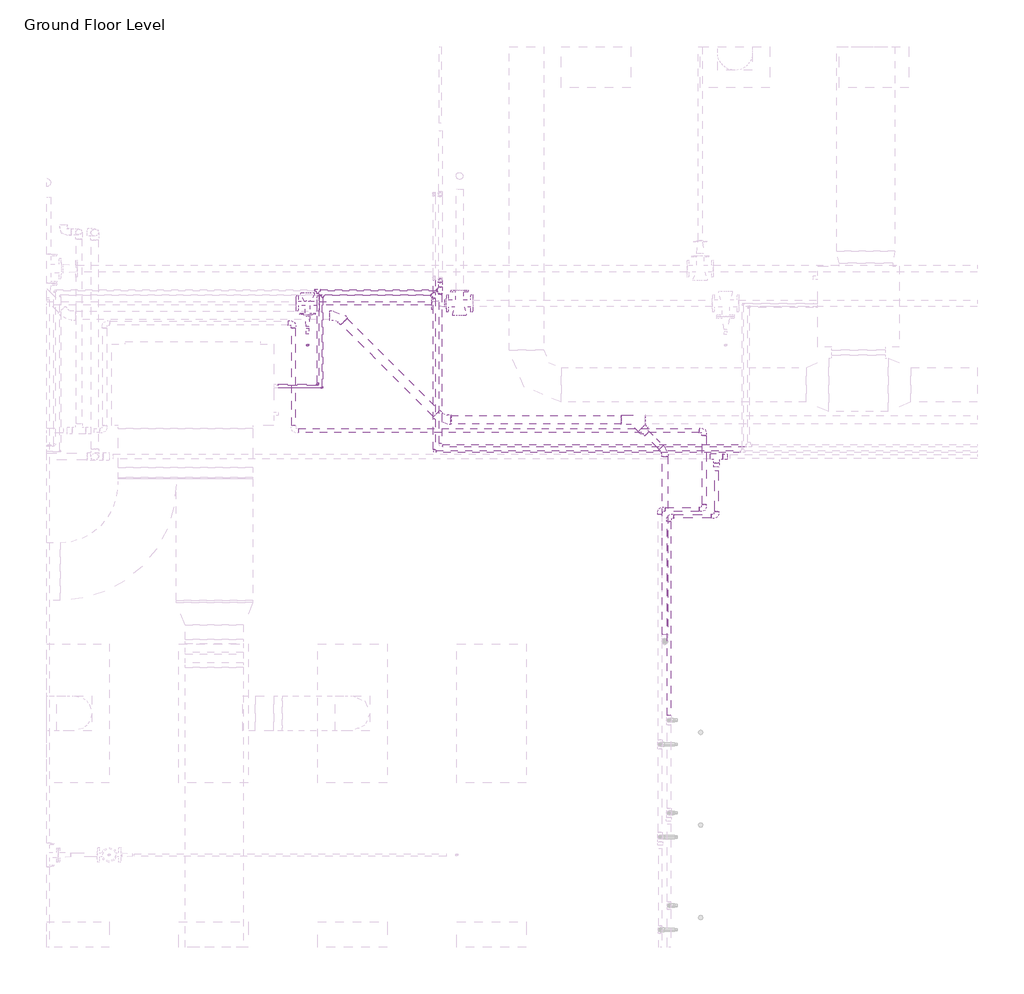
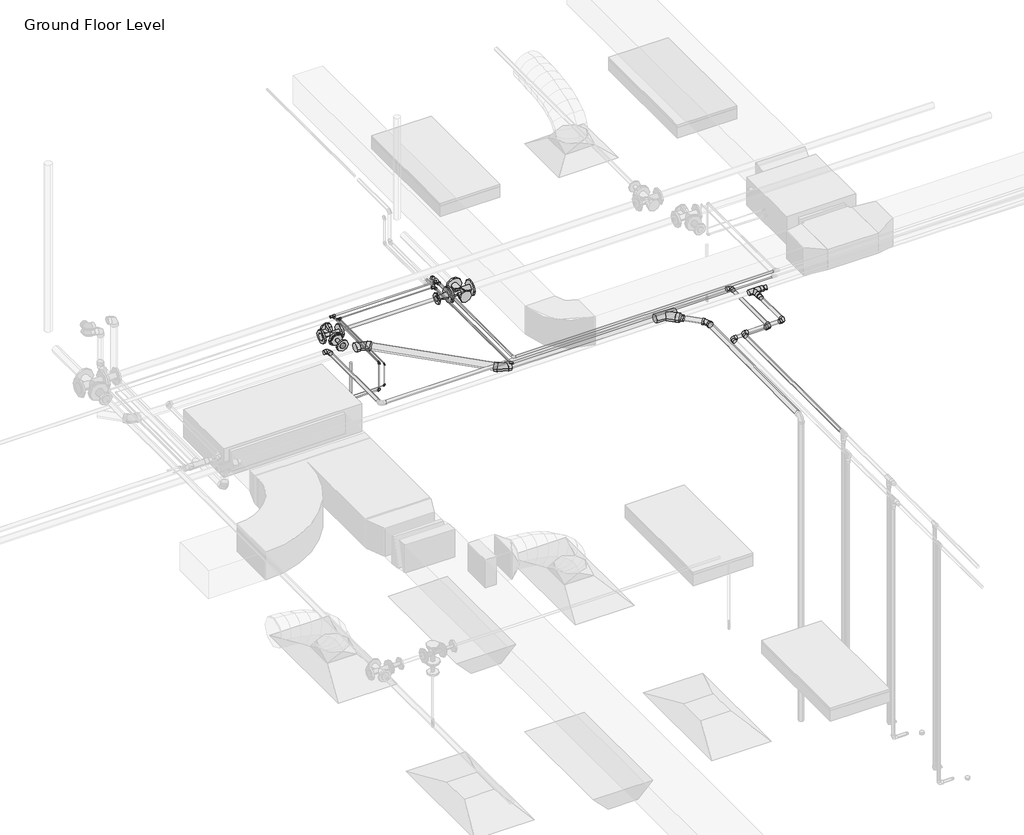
# One storey, part 53 of 74: 36 pipe fittings, 29 pipe segments, 1 fire suppression terminal.
"""IFC4 building model written with IfcOpenShell, lengths in millimetres."""

from ifc_helpers import new_model, si_unit, point, frame, frame_2d, origin, place, context, project, spatial, circle_curve, trimmed, segment, composite_curve, outline, extrude, transform, mapped, element, save
from components import m_sprinkler_pendent_15_mm_pendent_06fcbd8e, m_bend_pvc_sch_40_dwv_standard_9e3ead78, m_bend_pvc_sch_40_dwv_standard_3e306cb9, m_elbow_generic_standard_a088f956, m_elbow_generic_standard_2a704253, m_elbow_generic_standard_f25111a3, m_elbow_generic_standard_aa88c7e2, m_elbow_generic_standard_bb5ffebe, m_elbow_generic_standard_463efa77, m_reducer_flanged_cs_class_150_standard_ccf252ad, m_reducer_flanged_cs_class_150_standard_a7631c35, m_reducer_pvc_sch_40_dwv_standard_daff2b06, m_tee_generic_standard_cdc1cff5, m_tee_generic_standard_d9c36a1d, m_tee_generic_standard_3138dd84, m_tee_generic_standard_5078887e, m_tee_pvc_sch_40_standard_5dbb3026, m_tee_round_base_flanged_cs_class_150_standard_dd767e04, m_tee_round_base_flanged_cs_class_150_standard_7e5987a1, m_transition_generic_standard_6dc712c0, m_transition_generic_standard_b63c8674, m_transition_generic_standard_1c56dba2, m_transition_generic_standard_a7d161d7, m_transition_generic_standard_5a02929d, m_transition_generic_standard_5f8a9689, standard_517a5a8d, standard_08ff6011, standard_d0d0b892

model = new_model("IFC4")

# Units and contexts
model_context = context("Model", 3, world=origin())
ifc_project = project(units=[si_unit("LENGTHUNIT", "METRE", prefix="MILLI")], contexts=[model_context])

# Site, building, storey
site = spatial("IfcSite", under=ifc_project)
building = spatial("IfcBuilding", under=site)
storey = spatial("IfcBuildingStorey", under=building, Name="Ground Floor Level", Elevation=900.0)

# Fire suppression terminal
placement = place(None, origin())
m_sprinkler_pendent_15_mm_pendent_shape = m_sprinkler_pendent_15_mm_pendent_06fcbd8e(model_context)
element("IfcFireSuppressionTerminal", 1, ObjectType="M_Sprinkler - Pendent : 15 mm Pendent", at=placement, inside=storey, context=model_context, shape_type="MappedRepresentation", body=[
    mapped(m_sprinkler_pendent_15_mm_pendent_shape, transform((-3723.9852405, 14413.1701264, 3650.0), x_axis=(1.0, 0.0, 0.0), y_axis=(0.0, 1.0, 0.0), z_axis=(0.0, 0.0, 1.0))),
])

# Pipe fittings
m_bend_pvc_sch_40_dwv_standard_shape = m_bend_pvc_sch_40_dwv_standard_9e3ead78(model_context)
element("IfcPipeFitting", 2, ObjectType="M_Bend - PVC - Sch 40 - DWV : Standard", at=placement, inside=storey, context=model_context, shape_type="MappedRepresentation", body=[
    mapped(m_bend_pvc_sch_40_dwv_standard_shape, transform((-3461.339311, 14668.7334723, 4139.7239678), x_axis=(-0.707093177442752, 0.7070575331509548, 0.009427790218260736), y_axis=(-0.7070496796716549, -0.7071481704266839, 0.004713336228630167), z_axis=(0.009999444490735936, -0.003333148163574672, 0.9999444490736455))),
])
element("IfcPipeFitting", 3, ObjectType="M_Bend - PVC - Sch 40 - DWV : Standard", at=placement, inside=storey, context=model_context, shape_type="MappedRepresentation", body=[
    mapped(m_bend_pvc_sch_40_dwv_standard_shape, transform((-2561.2921336, 13768.7316659, 4127.72349), x_axis=(0.7070931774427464, -0.7070575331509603, -0.009427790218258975), y_axis=(0.7070496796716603, 0.7071481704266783, -0.0047133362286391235), z_axis=(0.009999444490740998, -0.003333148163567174, 0.9999444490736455))),
])
m_bend_pvc_sch_40_dwv_standard_2_shape = m_bend_pvc_sch_40_dwv_standard_3e306cb9(model_context)
element("IfcPipeFitting", 4, ObjectType="M_Bend - PVC - Sch 40 - DWV : Standard", at=placement, inside=storey, context=model_context, shape_type="MappedRepresentation", body=[
    mapped(m_bend_pvc_sch_40_dwv_standard_2_shape, transform((-642.2357232, 13495.4654482, 4110.1731446), x_axis=(0.0, 0.9999500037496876, 0.009999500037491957), y_axis=(-0.9999912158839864, -4.191228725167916e-05, 0.004191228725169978), z_axis=(0.004191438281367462, -0.00999941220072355, 0.9999412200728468))),
])
m_elbow_generic_standard_shape = m_elbow_generic_standard_a088f956(model_context)
element("IfcPipeFitting", 5, ObjectType="M_Elbow - Generic : Standard", at=placement, inside=storey, context=model_context, shape_type="MappedRepresentation", body=[
    mapped(m_elbow_generic_standard_shape, transform((-3637.0883718, 14069.8153534, 4380.0), x_axis=(0.0, 0.0, 1.0), y_axis=(0.0, 1.0, 0.0), z_axis=(-1.0, 0.0, 0.0))),
])
m_elbow_generic_standard_2_shape = m_elbow_generic_standard_2a704253(model_context)
element("IfcPipeFitting", 6, ObjectType="M_Elbow - Generic : Standard", at=placement, inside=storey, context=model_context, shape_type="MappedRepresentation", body=[
    mapped(m_elbow_generic_standard_2_shape, transform((-3597.0886568, 14044.8153534, 4365.0), x_axis=(0.0, 0.0, 1.0), y_axis=(0.0, 1.0, 0.0), z_axis=(-1.0, 0.0, 0.0))),
])
m_elbow_generic_standard_3_shape = m_elbow_generic_standard_f25111a3(model_context)
element("IfcPipeFitting", 7, ObjectType="M_Elbow - Generic : Standard", at=placement, inside=storey, context=model_context, shape_type="MappedRepresentation", body=[
    mapped(m_elbow_generic_standard_3_shape, transform((-3597.0886568, 14044.8153534, 4134.9021206), x_axis=(0.9999999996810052, 0.0, 2.525845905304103e-05), y_axis=(-2.525845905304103e-05, 0.0, 0.9999999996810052), z_axis=(0.0, -1.0, 0.0))),
])
m_elbow_generic_standard_4_shape = m_elbow_generic_standard_aa88c7e2(model_context)
element("IfcPipeFitting", 8, ObjectType="M_Elbow - Generic : Standard", at=placement, inside=storey, context=model_context, shape_type="MappedRepresentation", body=[
    mapped(m_elbow_generic_standard_4_shape, transform((-3637.0883718, 14069.8153534, 4084.1021206), x_axis=(0.9999999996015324, 0.0, 2.823004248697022e-05), y_axis=(-2.823004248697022e-05, 0.0, 0.9999999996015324), z_axis=(0.0, -1.0, 0.0))),
])
m_elbow_generic_standard_5_shape = m_elbow_generic_standard_bb5ffebe(model_context)
element("IfcPipeFitting", 9, ObjectType="M_Elbow - Generic : Standard", at=placement, inside=storey, context=model_context, shape_type="MappedRepresentation", body=[
    mapped(m_elbow_generic_standard_5_shape, transform((-2632.5317947, 13494.0185138, 4365.0), x_axis=(0.0, -1.0, 0.0), y_axis=(1.0, 0.0, 0.0), z_axis=(0.0, 0.0, 1.0))),
])
m_elbow_generic_standard_6_shape = m_elbow_generic_standard_463efa77(model_context)
element("IfcPipeFitting", 10, ObjectType="M_Elbow - Generic : Standard", at=placement, inside=storey, context=model_context, shape_type="MappedRepresentation", body=[
    mapped(m_elbow_generic_standard_6_shape, transform((-2579.6952605, 14974.394156, 4380.0), x_axis=(0.0, 1.0, 0.0), y_axis=(0.0, 0.0, -1.0), z_axis=(-1.0, 0.0, 0.0))),
])
m_reducer_flanged_cs_class_150_standard_shape = m_reducer_flanged_cs_class_150_standard_ccf252ad(model_context)
element("IfcPipeFitting", 11, ObjectType="M_Reducer - Flanged - CS - Class 150 : Standard", at=placement, inside=storey, context=model_context, shape_type="MappedRepresentation", body=[
    mapped(m_reducer_flanged_cs_class_150_standard_shape, transform((-3723.9852405, 14672.759591, 4291.0943441), x_axis=(0.0, -1.0, 0.0), y_axis=(1.0, 0.0, 0.0), z_axis=(0.0, 0.0, 1.0))),
])
m_reducer_flanged_cs_class_150_standard_2_shape = m_reducer_flanged_cs_class_150_standard_a7631c35(model_context)
element("IfcPipeFitting", 12, ObjectType="M_Reducer - Flanged - CS - Class 150 : Standard", at=placement, inside=storey, context=model_context, shape_type="MappedRepresentation", body=[
    mapped(m_reducer_flanged_cs_class_150_standard_2_shape, transform((-2527.9259545, 14773.4681847, 4291.0943441), x_axis=(-1.0, 0.0, 0.0), y_axis=(0.0, -1.0, 0.0), z_axis=(0.0, 0.0, 1.0))),
])
m_reducer_pvc_sch_40_dwv_standard_shape = m_reducer_pvc_sch_40_dwv_standard_daff2b06(model_context)
element("IfcPipeFitting", 13, ObjectType="M_Reducer - PVC - Sch 40 - DWV : Standard", at=placement, inside=storey, context=model_context, shape_type="MappedRepresentation", body=[
    mapped(m_reducer_pvc_sch_40_dwv_standard_shape, transform((-843.6840301, 13696.9036229, 4110.2439857), x_axis=(0.7070889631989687, -0.7070533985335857, -0.010034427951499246), y_axis=(0.707053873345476, 0.7071477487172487, -0.004108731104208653), z_axis=(0.010000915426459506, -0.004189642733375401, 0.9999412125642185))),
])
m_tee_generic_standard_shape = m_tee_generic_standard_cdc1cff5(model_context)
element("IfcPipeFitting", 14, ObjectType="M_Tee - Generic : Standard", at=placement, inside=storey, context=model_context, shape_type="MappedRepresentation", body=[
    mapped(m_tee_generic_standard_shape, transform((-3637.091079, 14885.6024145, 4380.0), x_axis=(-1.0, 0.0, 0.0), y_axis=(0.0, 1.0, 0.0), z_axis=(0.0, 0.0, -1.0))),
])
m_tee_generic_standard_2_shape = m_tee_generic_standard_d9c36a1d(model_context)
element("IfcPipeFitting", 15, ObjectType="M_Tee - Generic : Standard", at=placement, inside=storey, context=model_context, shape_type="MappedRepresentation", body=[
    mapped(m_tee_generic_standard_2_shape, transform((-3597.091079, 14844.4055749, 4365.0), x_axis=(1.0, 0.0, 0.0), y_axis=(0.0, 1.0, 0.0), z_axis=(0.0, 0.0, 1.0))),
])
m_tee_generic_standard_3_shape = m_tee_generic_standard_3138dd84(model_context)
element("IfcPipeFitting", 16, ObjectType="M_Tee - Generic : Standard", at=placement, inside=storey, context=model_context, shape_type="MappedRepresentation", body=[
    mapped(m_tee_generic_standard_3_shape, transform((-2579.6952605, 14885.6024145, 4380.0), x_axis=(0.0, 1.0, 0.0), y_axis=(1.0, 0.0, 0.0), z_axis=(0.0, 0.0, -1.0))),
])
m_tee_generic_standard_4_shape = m_tee_generic_standard_5078887e(model_context)
element("IfcPipeFitting", 17, ObjectType="M_Tee - Generic : Standard", at=placement, inside=storey, context=model_context, shape_type="MappedRepresentation", body=[
    mapped(m_tee_generic_standard_4_shape, transform((-2632.5317947, 14844.4055749, 4365.0), x_axis=(0.0, 1.0, 0.0), y_axis=(1.0, 0.0, 0.0), z_axis=(0.0, 0.0, -1.0))),
])
m_tee_pvc_sch_40_standard_shape = m_tee_pvc_sch_40_standard_5dbb3026(model_context)
element("IfcPipeFitting", 18, ObjectType="M_Tee - PVC - Sch 40 : Standard", at=placement, inside=storey, context=model_context, shape_type="MappedRepresentation", body=[
    mapped(m_tee_pvc_sch_40_standard_shape, transform((-915.515686, 13768.7316659, 4111.2633618), x_axis=(-0.9999499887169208, 0.0, 0.010001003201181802), y_axis=(4.190063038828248e-05, 0.9999912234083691, 0.004189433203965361), z_axis=(-0.010000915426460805, 0.004189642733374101, -0.9999412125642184))),
])
m_tee_round_base_flanged_cs_class_150_standard_shape = m_tee_round_base_flanged_cs_class_150_standard_dd767e04(model_context)
element("IfcPipeFitting", 19, ObjectType="M_Tee Round Base - Flanged - CS - Class 150 : Standard", at=placement, inside=storey, context=model_context, shape_type="MappedRepresentation", body=[
    mapped(m_tee_round_base_flanged_cs_class_150_standard_shape, transform((-2413.9259545, 14773.4681847, 4291.0943441), x_axis=(-1.0, 0.0, 0.0), y_axis=(0.0, -1.0, 0.0), z_axis=(0.0, 0.0, 1.0))),
])
m_tee_round_base_flanged_cs_class_150_standard_2_shape = m_tee_round_base_flanged_cs_class_150_standard_7e5987a1(model_context)
element("IfcPipeFitting", 20, ObjectType="M_Tee Round Base - Flanged - CS - Class 150 : Standard", at=placement, inside=storey, context=model_context, shape_type="MappedRepresentation", body=[
    mapped(m_tee_round_base_flanged_cs_class_150_standard_2_shape, transform((-3723.9852405, 14773.4681847, 4291.0943441), x_axis=(-1.0, 0.0, 0.0), y_axis=(0.0, 1.0, 0.0), z_axis=(0.0, 0.0, -1.0))),
])
m_transition_generic_standard_shape = m_transition_generic_standard_6dc712c0(model_context)
element("IfcPipeFitting", 21, ObjectType="M_Transition - Generic : Standard", at=placement, inside=storey, context=model_context, shape_type="MappedRepresentation", body=[
    mapped(m_transition_generic_standard_shape, transform((-3659.316079, 14885.6024145, 4380.0), x_axis=(-1.0, 0.0, 0.0), y_axis=(0.0, -1.0, 0.0), z_axis=(0.0, 0.0, 1.0))),
])
element("IfcPipeFitting", 22, ObjectType="M_Transition - Generic : Standard", at=placement, inside=storey, context=model_context, shape_type="MappedRepresentation", body=[
    mapped(m_transition_generic_standard_shape, transform((-3637.091079, 14863.3774145, 4380.0), x_axis=(0.0, -1.0, 0.0), y_axis=(1.0, 0.0, 0.0), z_axis=(0.0, 0.0, 1.0))),
])
m_transition_generic_standard_2_shape = m_transition_generic_standard_b63c8674(model_context)
element("IfcPipeFitting", 23, ObjectType="M_Transition - Generic : Standard", at=placement, inside=storey, context=model_context, shape_type="MappedRepresentation", body=[
    mapped(m_transition_generic_standard_2_shape, transform((-3616.128579, 14844.4055749, 4365.0), x_axis=(-1.0, 0.0, 0.0), y_axis=(0.0, -1.0, 0.0), z_axis=(0.0, 0.0, 1.0))),
])
element("IfcPipeFitting", 24, ObjectType="M_Transition - Generic : Standard", at=placement, inside=storey, context=model_context, shape_type="MappedRepresentation", body=[
    mapped(m_transition_generic_standard_2_shape, transform((-3597.091079, 14825.3680749, 4365.0), x_axis=(0.0, -1.0, 0.0), y_axis=(1.0, 0.0, 0.0), z_axis=(0.0, 0.0, 1.0))),
])
m_transition_generic_standard_3_shape = m_transition_generic_standard_1c56dba2(model_context)
element("IfcPipeFitting", 25, ObjectType="M_Transition - Generic : Standard", at=placement, inside=storey, context=model_context, shape_type="MappedRepresentation", body=[
    mapped(m_transition_generic_standard_3_shape, transform((-2608.2702605, 14885.6024145, 4380.0), x_axis=(-1.0, 0.0, 0.0), y_axis=(0.0, -1.0, 0.0), z_axis=(0.0, 0.0, 1.0))),
])
m_transition_generic_standard_4_shape = m_transition_generic_standard_a7d161d7(model_context)
element("IfcPipeFitting", 26, ObjectType="M_Transition - Generic : Standard", at=placement, inside=storey, context=model_context, shape_type="MappedRepresentation", body=[
    mapped(m_transition_generic_standard_4_shape, transform((-2656.3442947, 14844.4055749, 4365.0), x_axis=(-1.0, 0.0, 0.0), y_axis=(0.0, -1.0, 0.0), z_axis=(0.0, 0.0, 1.0))),
])
m_transition_generic_standard_5_shape = m_transition_generic_standard_5a02929d(model_context)
element("IfcPipeFitting", 27, ObjectType="M_Transition - Generic : Standard", at=placement, inside=storey, context=model_context, shape_type="MappedRepresentation", body=[
    mapped(m_transition_generic_standard_5_shape, transform((-2579.6952605, 14857.0274145, 4380.0), x_axis=(0.0, -1.0, 0.0), y_axis=(1.0, 0.0, 0.0), z_axis=(0.0, 0.0, 1.0))),
])
m_transition_generic_standard_6_shape = m_transition_generic_standard_5f8a9689(model_context)
element("IfcPipeFitting", 28, ObjectType="M_Transition - Generic : Standard", at=placement, inside=storey, context=model_context, shape_type="MappedRepresentation", body=[
    mapped(m_transition_generic_standard_6_shape, transform((-2632.5317947, 14820.5930749, 4365.0), x_axis=(0.0, -1.0, 0.0), y_axis=(1.0, 0.0, 0.0), z_axis=(0.0, 0.0, 1.0))),
])
standard_shape = standard_517a5a8d(model_context)
element("IfcPipeFitting", 29, ObjectType="M_Elbow - CPVC - Sch 40 : Standard", at=placement, inside=storey, context=model_context, shape_type="MappedRepresentation", body=[
    mapped(standard_shape, transform((-607.2327605, 12935.5128345, 4315.0), x_axis=(-1.0, 0.0, 0.0), y_axis=(0.0, -1.0, 0.0), z_axis=(0.0, 0.0, 1.0))),
])
element("IfcPipeFitting", 30, ObjectType="M_Elbow - CPVC - Sch 40 : Standard", at=placement, inside=storey, context=model_context, shape_type="MappedRepresentation", body=[
    mapped(standard_shape, transform((-197.2327605, 12935.5128345, 4315.0), x_axis=(1.0, 0.0, 0.0), y_axis=(0.0, 1.0, 0.0), z_axis=(0.0, 0.0, 1.0))),
])
element("IfcPipeFitting", 31, ObjectType="M_Elbow - CPVC - Sch 40 : Standard", at=placement, inside=storey, context=model_context, shape_type="MappedRepresentation", body=[
    mapped(standard_shape, transform((-304.0671674, 13675.2153534, 4250.0), x_axis=(0.0, 1.0, 0.0), y_axis=(-1.0, 0.0, 0.0), z_axis=(0.0, 0.0, 1.0))),
])
element("IfcPipeFitting", 32, ObjectType="M_Elbow - CPVC - Sch 40 : Standard", at=placement, inside=storey, context=model_context, shape_type="MappedRepresentation", body=[
    mapped(standard_shape, transform((-304.0671674, 12995.2153534, 4250.0), x_axis=(1.0, 0.0, 0.0), y_axis=(0.0, 1.0, 0.0), z_axis=(0.0, 0.0, 1.0))),
])
element("IfcPipeFitting", 33, ObjectType="M_Elbow - CPVC - Sch 40 : Standard", at=placement, inside=storey, context=model_context, shape_type="MappedRepresentation", body=[
    mapped(standard_shape, transform((-684.0671674, 12995.2153534, 4250.0), x_axis=(-1.0, 0.0, 0.0), y_axis=(0.0, -1.0, 0.0), z_axis=(0.0, 0.0, 1.0))),
])
element("IfcPipeFitting", 34, ObjectType="M_Elbow - CPVC - Sch 40 : Standard", at=placement, inside=storey, context=model_context, shape_type="MappedRepresentation", body=[
    mapped(standard_shape, transform((-3846.4489567, 14603.43487, 4250.0), x_axis=(0.0, 1.0, 0.0), y_axis=(-1.0, 0.0, 0.0), z_axis=(0.0, 0.0, 1.0))),
])
standard_2_shape = standard_08ff6011(model_context)
element("IfcPipeFitting", 35, ObjectType="M_Tee - CPVC - Sch 40 : Standard", at=placement, inside=storey, context=model_context, shape_type="MappedRepresentation", body=[
    mapped(standard_2_shape, transform((-197.2327605, 13449.9865561, 4315.0), x_axis=(1.0, 0.0, 0.0), y_axis=(0.0, 1.0, 0.0), z_axis=(0.0, 0.0, 1.0))),
])
standard_3_shape = standard_d0d0b892(model_context)
element("IfcPipeFitting", 36, ObjectType="M_Coupling Reducing - CPVC - Sch 40 : Standard", at=placement, inside=storey, context=model_context, shape_type="MappedRepresentation", body=[
    mapped(standard_3_shape, transform((-143.2577605, 13449.9865561, 4315.0), x_axis=(1.0, 0.0, 0.0), y_axis=(0.0, 1.0, 0.0), z_axis=(0.0, 0.0, 1.0))),
])
element("IfcPipeFitting", 37, ObjectType="M_Coupling Reducing - CPVC - Sch 40 : Standard", at=placement, inside=storey, context=model_context, shape_type="MappedRepresentation", body=[
    mapped(standard_3_shape, transform((-197.2327605, 13396.0115561, 4315.0), x_axis=(0.0, -1.0, 0.0), y_axis=(1.0, 0.0, 0.0), z_axis=(0.0, 0.0, 1.0))),
])

# Pipe segments
element("IfcPipeSegment", 38, ObjectType="CPVC", at=placement, inside=storey, context=model_context, shape_type="SweptSolid", body=[
    extrude(outline(composite_curve([segment(trimmed(circle_curve(frame_2d((4315.0, -607.2327605)), 16.7005), [point((4315.0, -590.5322605))], [point((4331.7005, -607.2327605))], False, "CARTESIAN"), True, "CONTINUOUS"), segment(trimmed(circle_curve(frame_2d((4315.0, -607.2327605)), 16.7005), [point((4331.7005, -607.2327605))], [point((4315.0, -623.9332605))], False, "CARTESIAN"), True, "CONTINUOUS"), segment(trimmed(circle_curve(frame_2d((4315.0, -607.2327605)), 16.7005), [point((4315.0, -623.9332605))], [point((4298.2995, -607.2327605))], False, "CARTESIAN"), True, "CONTINUOUS"), segment(trimmed(circle_curve(frame_2d((4315.0, -607.2327605)), 16.7005), [point((4298.2995, -607.2327605))], [point((4315.0, -590.5322605))], False, "CARTESIAN"), True, "CONTINUOUS")], self_intersect=False)), frame((0.0, 11215.2130345, 0.0), z_axis=(0.0, 1.0, 0.0), x_axis=(0.0, 0.0, 1.0)), (0.0, 0.0, 1.0), 1677.03725),
])
element("IfcPipeSegment", 39, ObjectType="CPVC", at=placement, inside=storey, context=model_context, shape_type="SweptSolid", body=[
    extrude(outline(composite_curve([segment(trimmed(circle_curve(frame_2d((12935.5128345, 4315.0)), 16.7005), [point((12918.8123345, 4315.0))], [point((12935.5128345, 4331.7005))], False, "CARTESIAN"), True, "CONTINUOUS"), segment(trimmed(circle_curve(frame_2d((12935.5128345, 4315.0)), 16.7005), [point((12935.5128345, 4331.7005))], [point((12952.2133345, 4315.0))], False, "CARTESIAN"), True, "CONTINUOUS"), segment(trimmed(circle_curve(frame_2d((12935.5128345, 4315.0)), 16.7005), [point((12952.2133345, 4315.0))], [point((12935.5128345, 4298.2995))], False, "CARTESIAN"), True, "CONTINUOUS"), segment(trimmed(circle_curve(frame_2d((12935.5128345, 4315.0)), 16.7005), [point((12935.5128345, 4298.2995))], [point((12918.8123345, 4315.0))], False, "CARTESIAN"), True, "CONTINUOUS")], self_intersect=False)), frame((-563.9702105, 0.0, 0.0), z_axis=(1.0, 0.0, 0.0), x_axis=(0.0, 1.0, 0.0)), (0.0, 0.0, 1.0), 323.4749),
])
element("IfcPipeSegment", 40, ObjectType="CPVC", at=placement, inside=storey, context=model_context, shape_type="SweptSolid", body=[
    extrude(outline(composite_curve([segment(trimmed(circle_curve(frame_2d((4315.0, -197.2327605)), 16.7005), [point((4315.0, -180.5322605))], [point((4331.7005, -197.2327605))], False, "CARTESIAN"), True, "CONTINUOUS"), segment(trimmed(circle_curve(frame_2d((4315.0, -197.2327605)), 16.7005), [point((4331.7005, -197.2327605))], [point((4315.0, -213.9332605))], False, "CARTESIAN"), True, "CONTINUOUS"), segment(trimmed(circle_curve(frame_2d((4315.0, -197.2327605)), 16.7005), [point((4315.0, -213.9332605))], [point((4298.2995, -197.2327605))], False, "CARTESIAN"), True, "CONTINUOUS"), segment(trimmed(circle_curve(frame_2d((4315.0, -197.2327605)), 16.7005), [point((4298.2995, -197.2327605))], [point((4315.0, -180.5322605))], False, "CARTESIAN"), True, "CONTINUOUS")], self_intersect=False)), frame((0.0, 12978.7753845, 0.0), z_axis=(0.0, 1.0, 0.0), x_axis=(0.0, 0.0, 1.0)), (0.0, 0.0, 1.0), 351.1172966),
])
element("IfcPipeSegment", 41, ObjectType="CPVC", at=placement, inside=storey, context=model_context, shape_type="SweptSolid", body=[
    extrude(outline(composite_curve([segment(trimmed(circle_curve(frame_2d((4250.0, -304.0671674)), 16.7005), [point((4250.0, -320.7676674))], [point((4233.2995, -304.0671674))], False, "CARTESIAN"), True, "CONTINUOUS"), segment(trimmed(circle_curve(frame_2d((4250.0, -304.0671674)), 16.7005), [point((4233.2995, -304.0671674))], [point((4250.0, -287.3666674))], False, "CARTESIAN"), True, "CONTINUOUS"), segment(trimmed(circle_curve(frame_2d((4250.0, -304.0671674)), 16.7005), [point((4250.0, -287.3666674))], [point((4266.7005, -304.0671674))], False, "CARTESIAN"), True, "CONTINUOUS"), segment(trimmed(circle_curve(frame_2d((4250.0, -304.0671674)), 16.7005), [point((4266.7005, -304.0671674))], [point((4250.0, -320.7676674))], False, "CARTESIAN"), True, "CONTINUOUS")], self_intersect=False)), frame((0.0, 13038.4779034, 0.0), z_axis=(0.0, 1.0, 0.0), x_axis=(0.0, 0.0, 1.0)), (0.0, 0.0, 1.0), 593.4749),
])
element("IfcPipeSegment", 42, ObjectType="CPVC", at=placement, inside=storey, context=model_context, shape_type="SweptSolid", body=[
    extrude(outline(composite_curve([segment(trimmed(circle_curve(frame_2d((12995.2153534, 4250.0)), 16.7005), [point((13011.9158534, 4250.0))], [point((12995.2153534, 4233.2995))], False, "CARTESIAN"), True, "CONTINUOUS"), segment(trimmed(circle_curve(frame_2d((12995.2153534, 4250.0)), 16.7005), [point((12995.2153534, 4233.2995))], [point((12978.5148534, 4250.0))], False, "CARTESIAN"), True, "CONTINUOUS"), segment(trimmed(circle_curve(frame_2d((12995.2153534, 4250.0)), 16.7005), [point((12978.5148534, 4250.0))], [point((12995.2153534, 4266.7005))], False, "CARTESIAN"), True, "CONTINUOUS"), segment(trimmed(circle_curve(frame_2d((12995.2153534, 4250.0)), 16.7005), [point((12995.2153534, 4266.7005))], [point((13011.9158534, 4250.0))], False, "CARTESIAN"), True, "CONTINUOUS")], self_intersect=False)), frame((-640.8046174, 0.0, 0.0), z_axis=(1.0, 0.0, 0.0), x_axis=(0.0, 1.0, 0.0)), (0.0, 0.0, 1.0), 293.4749),
])
element("IfcPipeSegment", 43, ObjectType="CPVC", at=placement, inside=storey, context=model_context, shape_type="SweptSolid", body=[
    extrude(outline(composite_curve([segment(trimmed(circle_curve(frame_2d((4250.0, -3846.4489567)), 16.7005), [point((4250.0, -3863.1494567))], [point((4233.2995, -3846.4489567))], False, "CARTESIAN"), True, "CONTINUOUS"), segment(trimmed(circle_curve(frame_2d((4250.0, -3846.4489567)), 16.7005), [point((4233.2995, -3846.4489567))], [point((4250.0, -3829.7484567))], False, "CARTESIAN"), True, "CONTINUOUS"), segment(trimmed(circle_curve(frame_2d((4250.0, -3846.4489567)), 16.7005), [point((4250.0, -3829.7484567))], [point((4266.7005, -3846.4489567))], False, "CARTESIAN"), True, "CONTINUOUS"), segment(trimmed(circle_curve(frame_2d((4250.0, -3846.4489567)), 16.7005), [point((4266.7005, -3846.4489567))], [point((4250.0, -3863.1494567))], False, "CARTESIAN"), True, "CONTINUOUS")], self_intersect=False)), frame((0.0, 13718.4779034, 0.0), z_axis=(0.0, 1.0, 0.0), x_axis=(0.0, 0.0, 1.0)), (0.0, 0.0, 1.0), 841.6944166),
])
element("IfcPipeSegment", 44, ObjectType="CPVC", at=placement, inside=storey, context=model_context, shape_type="SweptSolid", body=[
    extrude(outline(composite_curve([segment(trimmed(circle_curve(frame_2d((13675.2153534, 4250.0)), 16.7005), [point((13691.9158534, 4250.0))], [point((13675.2153534, 4233.2995))], False, "CARTESIAN"), True, "CONTINUOUS"), segment(trimmed(circle_curve(frame_2d((13675.2153534, 4250.0)), 16.7005), [point((13675.2153534, 4233.2995))], [point((13658.5148534, 4250.0))], False, "CARTESIAN"), True, "CONTINUOUS"), segment(trimmed(circle_curve(frame_2d((13675.2153534, 4250.0)), 16.7005), [point((13658.5148534, 4250.0))], [point((13675.2153534, 4266.7005))], False, "CARTESIAN"), True, "CONTINUOUS"), segment(trimmed(circle_curve(frame_2d((13675.2153534, 4250.0)), 16.7005), [point((13675.2153534, 4266.7005))], [point((13691.9158534, 4250.0))], False, "CARTESIAN"), True, "CONTINUOUS")], self_intersect=False)), frame((-3803.1864067, 0.0, 0.0), z_axis=(1.0, 0.0, 0.0), x_axis=(0.0, 1.0, 0.0)), (0.0, 0.0, 1.0), 3455.8566893),
])
element("IfcPipeSegment", 45, ObjectType="Copper", at=placement, inside=storey, context=model_context, shape_type="SweptSolid", body=[
    extrude(outline(composite_curve([segment(trimmed(circle_curve(frame_2d((4380.0, -2579.6952605)), 11.5), [point((4380.0, -2591.1952605))], [point((4368.5, -2579.6952605))], False, "CARTESIAN"), True, "CONTINUOUS"), segment(trimmed(circle_curve(frame_2d((4380.0, -2579.6952605)), 11.5), [point((4368.5, -2579.6952605))], [point((4380.0, -2568.1952605))], False, "CARTESIAN"), True, "CONTINUOUS"), segment(trimmed(circle_curve(frame_2d((4380.0, -2579.6952605)), 11.5), [point((4380.0, -2568.1952605))], [point((4391.5, -2579.6952605))], False, "CARTESIAN"), True, "CONTINUOUS"), segment(trimmed(circle_curve(frame_2d((4380.0, -2579.6952605)), 11.5), [point((4391.5, -2579.6952605))], [point((4380.0, -2591.1952605))], False, "CARTESIAN"), True, "CONTINUOUS")], self_intersect=False)), frame((0.0, 13564.2653534, 0.0), z_axis=(0.0, 1.0, 0.0), x_axis=(0.0, 0.0, 1.0)), (0.0, 0.0, 1.0), 1284.8245611),
])
element("IfcPipeSegment", 46, ObjectType="Copper", at=placement, inside=storey, context=model_context, shape_type="SweptSolid", body=[
    extrude(outline(composite_curve([segment(trimmed(circle_curve(frame_2d((4365.0, -2632.5317947)), 8.1), [point((4365.0, -2640.6317947))], [point((4356.9, -2632.5317947))], False, "CARTESIAN"), True, "CONTINUOUS"), segment(trimmed(circle_curve(frame_2d((4365.0, -2632.5317947)), 8.1), [point((4356.9, -2632.5317947))], [point((4365.0, -2624.4317947))], False, "CARTESIAN"), True, "CONTINUOUS"), segment(trimmed(circle_curve(frame_2d((4365.0, -2632.5317947)), 8.1), [point((4365.0, -2624.4317947))], [point((4373.1, -2632.5317947))], False, "CARTESIAN"), True, "CONTINUOUS"), segment(trimmed(circle_curve(frame_2d((4365.0, -2632.5317947)), 8.1), [point((4373.1, -2632.5317947))], [point((4365.0, -2640.6317947))], False, "CARTESIAN"), True, "CONTINUOUS")], self_intersect=False)), frame((0.0, 13509.8935138, 0.0), z_axis=(0.0, 1.0, 0.0), x_axis=(0.0, 0.0, 1.0)), (0.0, 0.0, 1.0), 1305.1433111),
])
element("IfcPipeSegment", 47, ObjectType="Copper", at=placement, inside=storey, context=model_context, shape_type="SweptSolid", body=[
    extrude(outline(composite_curve([segment(trimmed(circle_curve(frame_2d((0.0, 6.5)), 6.5), [point((-6.5, 6.5))], [point((0.0, 13.0))], False, "CARTESIAN"), True, "CONTINUOUS"), segment(trimmed(circle_curve(frame_2d((0.0, 6.5)), 6.5), [point((0.0, 13.0))], [point((6.5, 6.5))], False, "CARTESIAN"), True, "CONTINUOUS"), segment(trimmed(circle_curve(frame_2d((0.0, 6.5)), 6.5), [point((6.5, 6.5))], [point((0.0, 0.0))], False, "CARTESIAN"), True, "CONTINUOUS"), segment(trimmed(circle_curve(frame_2d((0.0, 6.5)), 6.5), [point((0.0, 0.0))], [point((-6.5, 6.5))], False, "CARTESIAN"), True, "CONTINUOUS")], self_intersect=False)), frame((-3977.0908954, 14069.8153534, 4077.5925223), z_axis=(0.9999999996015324, 0.0, 2.8230042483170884e-05), x_axis=(0.0, 1.0, 0.0)), (0.0, 0.0, 1.0), 325.7156105),
])
element("IfcPipeSegment", 48, ObjectType="Copper", at=placement, inside=storey, context=model_context, shape_type="SweptSolid", body=[
    extrude(outline(composite_curve([segment(trimmed(circle_curve(frame_2d((0.0, 6.5)), 6.5), [point((0.0, 13.0))], [point((6.5, 6.5))], False, "CARTESIAN"), True, "CONTINUOUS"), segment(trimmed(circle_curve(frame_2d((0.0, 6.5)), 6.5), [point((6.5, 6.5))], [point((0.0, 0.0))], False, "CARTESIAN"), True, "CONTINUOUS"), segment(trimmed(circle_curve(frame_2d((0.0, 6.5)), 6.5), [point((0.0, 0.0))], [point((-6.5, 6.5))], False, "CARTESIAN"), True, "CONTINUOUS"), segment(trimmed(circle_curve(frame_2d((0.0, 6.5)), 6.5), [point((-6.5, 6.5))], [point((0.0, 13.0))], False, "CARTESIAN"), True, "CONTINUOUS")], self_intersect=False)), frame((-3643.5883718, 14084.1028307, 4380.0), z_axis=(-3.495363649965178e-06, 0.9999999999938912, 0.0), x_axis=(0.0, 0.0, 1.0)), (0.0, 0.0, 1.0), 774.5120611),
])
element("IfcPipeSegment", 49, ObjectType="Copper", at=placement, inside=storey, context=model_context, shape_type="SweptSolid", body=[
    extrude(outline(composite_curve([segment(trimmed(circle_curve(frame_2d((0.0, 3.35)), 3.35), [point((-3.35, 3.35))], [point((0.0, 6.7))], False, "CARTESIAN"), True, "CONTINUOUS"), segment(trimmed(circle_curve(frame_2d((0.0, 3.35)), 3.35), [point((0.0, 6.7))], [point((3.35, 3.35))], False, "CARTESIAN"), True, "CONTINUOUS"), segment(trimmed(circle_curve(frame_2d((0.0, 3.35)), 3.35), [point((3.35, 3.35))], [point((0.0, 0.0))], False, "CARTESIAN"), True, "CONTINUOUS"), segment(trimmed(circle_curve(frame_2d((0.0, 3.35)), 3.35), [point((0.0, 0.0))], [point((-3.35, 3.35))], False, "CARTESIAN"), True, "CONTINUOUS")], self_intersect=False)), frame((-3977.0909943, 14044.8153534, 4131.5425223), z_axis=(0.9999999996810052, 0.0, 2.5258459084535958e-05), x_axis=(0.0, 1.0, 0.0)), (0.0, 0.0, 1.0), 368.8652035),
])
element("IfcPipeSegment", 50, ObjectType="Copper", at=placement, inside=storey, context=model_context, shape_type="SweptSolid", body=[
    extrude(outline(composite_curve([segment(trimmed(circle_curve(frame_2d((0.0, 3.35)), 3.35), [point((0.0, 6.7))], [point((3.35, 3.35))], False, "CARTESIAN"), True, "CONTINUOUS"), segment(trimmed(circle_curve(frame_2d((0.0, 3.35)), 3.35), [point((3.35, 3.35))], [point((0.0, 0.0))], False, "CARTESIAN"), True, "CONTINUOUS"), segment(trimmed(circle_curve(frame_2d((0.0, 3.35)), 3.35), [point((0.0, 0.0))], [point((-3.35, 3.35))], False, "CARTESIAN"), True, "CONTINUOUS"), segment(trimmed(circle_curve(frame_2d((0.0, 3.35)), 3.35), [point((-3.35, 3.35))], [point((0.0, 6.7))], False, "CARTESIAN"), True, "CONTINUOUS")], self_intersect=False)), frame((-3600.4386568, 14055.9528428, 4365.0), z_axis=(-3.1611664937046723e-06, 0.9999999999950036, 0.0), x_axis=(0.0, 0.0, 1.0)), (0.0, 0.0, 1.0), 766.2464715),
])
element("IfcPipeSegment", 51, ObjectType="Copper", at=placement, inside=storey, context=model_context, shape_type="SweptSolid", body=[
    extrude(outline(composite_curve([segment(trimmed(circle_curve(frame_2d((-3597.0886568, 14044.8153534)), 3.35), [point((-3600.4386568, 14044.8153534))], [point((-3597.0886568, 14048.1653534))], False, "CARTESIAN"), True, "CONTINUOUS"), segment(trimmed(circle_curve(frame_2d((-3597.0886568, 14044.8153534)), 3.35), [point((-3597.0886568, 14048.1653534))], [point((-3593.7386568, 14044.8153534))], False, "CARTESIAN"), True, "CONTINUOUS"), segment(trimmed(circle_curve(frame_2d((-3597.0886568, 14044.8153534)), 3.35), [point((-3593.7386568, 14044.8153534))], [point((-3597.0886568, 14041.4653534))], False, "CARTESIAN"), True, "CONTINUOUS"), segment(trimmed(circle_curve(frame_2d((-3597.0886568, 14044.8153534)), 3.35), [point((-3597.0886568, 14041.4653534))], [point((-3600.4386568, 14044.8153534))], False, "CARTESIAN"), True, "CONTINUOUS")], self_intersect=False)), frame((0.0, 0.0, 4146.0393393), z_axis=(0.0, 0.0, 1.0), x_axis=(1.0, 0.0, 0.0)), (0.0, 0.0, 1.0), 207.8231607),
])
element("IfcPipeSegment", 52, ObjectType="Copper", at=placement, inside=storey, context=model_context, shape_type="SweptSolid", body=[
    extrude(outline(composite_curve([segment(trimmed(circle_curve(frame_2d((-3637.0883718, 14069.8153534)), 6.5), [point((-3643.5883718, 14069.8153534))], [point((-3637.0883718, 14076.3153534))], False, "CARTESIAN"), True, "CONTINUOUS"), segment(trimmed(circle_curve(frame_2d((-3637.0883718, 14069.8153534)), 6.5), [point((-3637.0883718, 14076.3153534))], [point((-3630.5883718, 14069.8153534))], False, "CARTESIAN"), True, "CONTINUOUS"), segment(trimmed(circle_curve(frame_2d((-3637.0883718, 14069.8153534)), 6.5), [point((-3630.5883718, 14069.8153534))], [point((-3637.0883718, 14063.3153534))], False, "CARTESIAN"), True, "CONTINUOUS"), segment(trimmed(circle_curve(frame_2d((-3637.0883718, 14069.8153534)), 6.5), [point((-3637.0883718, 14063.3153534))], [point((-3643.5883718, 14069.8153534))], False, "CARTESIAN"), True, "CONTINUOUS")], self_intersect=False)), frame((0.0, 0.0, 4098.3892173), z_axis=(0.0, 0.0, 1.0), x_axis=(1.0, 0.0, 0.0)), (0.0, 0.0, 1.0), 267.3232827),
])
element("IfcPipeSegment", 53, ObjectType="Copper", at=placement, inside=storey, context=model_context, shape_type="SweptSolid", body=[
    extrude(outline(composite_curve([segment(trimmed(circle_curve(frame_2d((14885.6024145, 4380.0)), 8.1), [point((14877.5024145, 4380.0))], [point((14885.6024145, 4388.1))], False, "CARTESIAN"), True, "CONTINUOUS"), segment(trimmed(circle_curve(frame_2d((14885.6024145, 4380.0)), 8.1), [point((14885.6024145, 4388.1))], [point((14893.7024145, 4380.0))], False, "CARTESIAN"), True, "CONTINUOUS"), segment(trimmed(circle_curve(frame_2d((14885.6024145, 4380.0)), 8.1), [point((14893.7024145, 4380.0))], [point((14885.6024145, 4371.9))], False, "CARTESIAN"), True, "CONTINUOUS"), segment(trimmed(circle_curve(frame_2d((14885.6024145, 4380.0)), 8.1), [point((14885.6024145, 4371.9))], [point((14877.5024145, 4380.0))], False, "CARTESIAN"), True, "CONTINUOUS")], self_intersect=False)), frame((-3614.866079, 0.0, 0.0), z_axis=(1.0, 0.0, 0.0), x_axis=(0.0, 1.0, 0.0)), (0.0, 0.0, 1.0), 998.6583185),
])
element("IfcPipeSegment", 54, ObjectType="Copper", at=placement, inside=storey, context=model_context, shape_type="SweptSolid", body=[
    extrude(outline(composite_curve([segment(trimmed(circle_curve(frame_2d((14844.4055749, 4365.0)), 4.9), [point((14849.3055749, 4365.0))], [point((14844.4055749, 4360.1))], False, "CARTESIAN"), True, "CONTINUOUS"), segment(trimmed(circle_curve(frame_2d((14844.4055749, 4365.0)), 4.9), [point((14844.4055749, 4360.1))], [point((14839.5055749, 4365.0))], False, "CARTESIAN"), True, "CONTINUOUS"), segment(trimmed(circle_curve(frame_2d((14844.4055749, 4365.0)), 4.9), [point((14839.5055749, 4365.0))], [point((14844.4055749, 4369.9))], False, "CARTESIAN"), True, "CONTINUOUS"), segment(trimmed(circle_curve(frame_2d((14844.4055749, 4365.0)), 4.9), [point((14844.4055749, 4369.9))], [point((14849.3055749, 4365.0))], False, "CARTESIAN"), True, "CONTINUOUS")], self_intersect=False)), frame((-3578.053579, 0.0, 0.0), z_axis=(1.0, 0.0, 0.0), x_axis=(0.0, 1.0, 0.0)), (0.0, 0.0, 1.0), 916.1530343),
])
element("IfcPipeSegment", 55, ObjectType="Copper", at=placement, inside=storey, context=model_context, shape_type="SweptSolid", body=[
    extrude(outline(composite_curve([segment(trimmed(circle_curve(frame_2d((13494.0185138, 4365.0)), 8.1), [point((13485.9185138, 4365.0))], [point((13494.0185138, 4373.1))], False, "CARTESIAN"), True, "CONTINUOUS"), segment(trimmed(circle_curve(frame_2d((13494.0185138, 4365.0)), 8.1), [point((13494.0185138, 4373.1))], [point((13502.1185138, 4365.0))], False, "CARTESIAN"), True, "CONTINUOUS"), segment(trimmed(circle_curve(frame_2d((13494.0185138, 4365.0)), 8.1), [point((13502.1185138, 4365.0))], [point((13494.0185138, 4356.9))], False, "CARTESIAN"), True, "CONTINUOUS"), segment(trimmed(circle_curve(frame_2d((13494.0185138, 4365.0)), 8.1), [point((13494.0185138, 4356.9))], [point((13485.9185138, 4365.0))], False, "CARTESIAN"), True, "CONTINUOUS")], self_intersect=False)), frame((-2616.6567947, 0.0, 0.0), z_axis=(1.0, 0.0, 0.0), x_axis=(0.0, 1.0, 0.0)), (0.0, 0.0, 1.0), 2624.4125),
])
element("IfcPipeSegment", 56, ObjectType="Copper", at=placement, inside=storey, context=model_context, shape_type="SweptSolid", body=[
    extrude(outline(composite_curve([segment(trimmed(circle_curve(frame_2d((13545.2153534, 4380.0)), 11.5), [point((13533.7153534, 4380.0))], [point((13545.2153534, 4391.5))], False, "CARTESIAN"), True, "CONTINUOUS"), segment(trimmed(circle_curve(frame_2d((13545.2153534, 4380.0)), 11.5), [point((13545.2153534, 4391.5))], [point((13556.7153534, 4380.0))], False, "CARTESIAN"), True, "CONTINUOUS"), segment(trimmed(circle_curve(frame_2d((13545.2153534, 4380.0)), 11.5), [point((13556.7153534, 4380.0))], [point((13545.2153534, 4368.5))], False, "CARTESIAN"), True, "CONTINUOUS"), segment(trimmed(circle_curve(frame_2d((13545.2153534, 4380.0)), 11.5), [point((13545.2153534, 4368.5))], [point((13533.7153534, 4380.0))], False, "CARTESIAN"), True, "CONTINUOUS")], self_intersect=False)), frame((-2560.6452605, 0.0, 0.0), z_axis=(1.0, 0.0, 0.0), x_axis=(0.0, 1.0, 0.0)), (0.0, 0.0, 1.0), 2614.9125),
])
element("IfcPipeSegment", 57, ObjectType="Copper", at=placement, inside=storey, context=model_context, shape_type="SweptSolid", body=[
    extrude(outline(composite_curve([segment(trimmed(circle_curve(frame_2d((4365.0, -2632.5317947)), 9.75), [point((4365.0, -2622.7817947))], [point((4374.75, -2632.5317947))], False, "CARTESIAN"), True, "CONTINUOUS"), segment(trimmed(circle_curve(frame_2d((4365.0, -2632.5317947)), 9.75), [point((4374.75, -2632.5317947))], [point((4365.0, -2642.2817947))], False, "CARTESIAN"), True, "CONTINUOUS"), segment(trimmed(circle_curve(frame_2d((4365.0, -2632.5317947)), 9.75), [point((4365.0, -2642.2817947))], [point((4355.25, -2632.5317947))], False, "CARTESIAN"), True, "CONTINUOUS"), segment(trimmed(circle_curve(frame_2d((4365.0, -2632.5317947)), 9.75), [point((4355.25, -2632.5317947))], [point((4365.0, -2622.7817947))], False, "CARTESIAN"), True, "CONTINUOUS")], self_intersect=False)), frame((0.0, 14868.2180749, 0.0), z_axis=(0.0, 1.0, 0.0), x_axis=(0.0, 0.0, 1.0)), (0.0, 0.0, 1.0), 105.0971644),
])
element("IfcPipeSegment", 58, ObjectType="Copper", at=placement, inside=storey, context=model_context, shape_type="SweptSolid", body=[
    extrude(outline(composite_curve([segment(trimmed(circle_curve(frame_2d((4380.0, -2579.6952605)), 14.5), [point((4380.0, -2565.1952605))], [point((4394.5, -2579.6952605))], False, "CARTESIAN"), True, "CONTINUOUS"), segment(trimmed(circle_curve(frame_2d((4380.0, -2579.6952605)), 14.5), [point((4394.5, -2579.6952605))], [point((4380.0, -2594.1952605))], False, "CARTESIAN"), True, "CONTINUOUS"), segment(trimmed(circle_curve(frame_2d((4380.0, -2579.6952605)), 14.5), [point((4380.0, -2594.1952605))], [point((4365.5, -2579.6952605))], False, "CARTESIAN"), True, "CONTINUOUS"), segment(trimmed(circle_curve(frame_2d((4380.0, -2579.6952605)), 14.5), [point((4365.5, -2579.6952605))], [point((4380.0, -2565.1952605))], False, "CARTESIAN"), True, "CONTINUOUS")], self_intersect=False)), frame((0.0, 14914.1774145, 0.0), z_axis=(0.0, 1.0, 0.0), x_axis=(0.0, 0.0, 1.0)), (0.0, 0.0, 1.0), 37.9917415),
])
element("IfcPipeSegment", 59, ObjectType="Copper", at=placement, inside=storey, context=model_context, shape_type="SweptSolid", body=[
    extrude(outline(composite_curve([segment(trimmed(circle_curve(frame_2d((-2579.6952605, 14974.394156)), 14.5), [point((-2565.1952605, 14974.394156))], [point((-2579.6952605, 14959.894156))], False, "CARTESIAN"), True, "CONTINUOUS"), segment(trimmed(circle_curve(frame_2d((-2579.6952605, 14974.394156)), 14.5), [point((-2579.6952605, 14959.894156))], [point((-2594.1952605, 14974.394156))], False, "CARTESIAN"), True, "CONTINUOUS"), segment(trimmed(circle_curve(frame_2d((-2579.6952605, 14974.394156)), 14.5), [point((-2594.1952605, 14974.394156))], [point((-2579.6952605, 14988.894156))], False, "CARTESIAN"), True, "CONTINUOUS"), segment(trimmed(circle_curve(frame_2d((-2579.6952605, 14974.394156)), 14.5), [point((-2579.6952605, 14988.894156))], [point((-2565.1952605, 14974.394156))], False, "CARTESIAN"), True, "CONTINUOUS")], self_intersect=False)), frame((0.0, 0.0, 4322.225), z_axis=(0.0, 0.0, 1.0), x_axis=(1.0, 0.0, 0.0)), (0.0, 0.0, 1.0), 35.55),
])
element("IfcPipeSegment", 60, ObjectType="PVC - DWV", at=placement, inside=storey, context=model_context, shape_type="SweptSolid", body=[
    extrude(outline(composite_curve([segment(trimmed(circle_curve(frame_2d((0.0, -36.5125)), 36.5125), [point((-36.5108772, -36.8567342))], [point((-0.3442341, -0.0016227))], False, "CARTESIAN"), True, "CONTINUOUS"), segment(trimmed(circle_curve(frame_2d((0.0, -36.5125)), 36.5125), [point((-0.3442341, -0.0016227))], [point((36.5108773, -36.1682657))], False, "CARTESIAN"), True, "CONTINUOUS"), segment(trimmed(circle_curve(frame_2d((0.0, -36.5125)), 36.5125), [point((36.5108773, -36.1682657))], [point((0.3442343, -73.0233772))], False, "CARTESIAN"), True, "CONTINUOUS"), segment(trimmed(circle_curve(frame_2d((0.0, -36.5125)), 36.5125), [point((0.3442343, -73.0233772))], [point((-36.5108772, -36.8567342))], False, "CARTESIAN"), True, "CONTINUOUS")], self_intersect=False)), frame((-2613.257958, 13821.1816791, 4091.9071043), z_axis=(-0.7070931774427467, 0.70705753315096, 0.009427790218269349), x_axis=(0.7071203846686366, 0.7070303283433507, 0.00942742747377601)), (0.0, 0.0, 1.0), 1125.8990386),
])
element("IfcPipeSegment", 61, ObjectType="PVC - DWV", at=placement, inside=storey, context=model_context, shape_type="SweptSolid", body=[
    extrude(outline(composite_curve([segment(trimmed(circle_curve(frame_2d((0.0, 24.13)), 24.13), [point((24.13, 24.13))], [point((0.0, 0.0))], False, "CARTESIAN"), True, "CONTINUOUS"), segment(trimmed(circle_curve(frame_2d((0.0, 24.13)), 24.13), [point((0.0, 0.0))], [point((-24.13, 24.13))], False, "CARTESIAN"), True, "CONTINUOUS"), segment(trimmed(circle_curve(frame_2d((0.0, 24.13)), 24.13), [point((-24.13, 24.13))], [point((0.0, 48.26))], False, "CARTESIAN"), True, "CONTINUOUS"), segment(trimmed(circle_curve(frame_2d((0.0, 24.13)), 24.13), [point((0.0, 48.26))], [point((24.13, 24.13))], False, "CARTESIAN"), True, "CONTINUOUS")], self_intersect=False)), frame((-642.2357232, 11917.2058139, 4118.5217547), z_axis=(0.0, 0.9999500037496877, 0.009999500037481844), x_axis=(1.0, 0.0, 0.0)), (0.0, 0.0, 1.0), 1532.0724454),
])
element("IfcPipeSegment", 62, ObjectType="PVC - DWV", at=placement, inside=storey, context=model_context, shape_type="SweptSolid", body=[
    extrude(outline(composite_curve([segment(trimmed(circle_curve(frame_2d((0.0, 24.13)), 24.13), [point((24.1287851, 24.3721308))], [point((0.2421308, 0.0012148))], False, "CARTESIAN"), True, "CONTINUOUS"), segment(trimmed(circle_curve(frame_2d((0.0, 24.13)), 24.13), [point((0.2421308, 0.0012148))], [point((-24.1287851, 23.8878693))], False, "CARTESIAN"), True, "CONTINUOUS"), segment(trimmed(circle_curve(frame_2d((0.0, 24.13)), 24.13), [point((-24.1287851, 23.8878693))], [point((-0.2421307, 48.2587851))], False, "CARTESIAN"), True, "CONTINUOUS"), segment(trimmed(circle_curve(frame_2d((0.0, 24.13)), 24.13), [point((-0.2421307, 48.2587851))], [point((24.1287851, 24.3721308))], False, "CARTESIAN"), True, "CONTINUOUS")], self_intersect=False)), frame((-674.7793513, 13527.6650235, 4134.7625475), z_axis=(-0.7070889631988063, 0.7070533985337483, 0.010034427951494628), x_axis=(0.7071245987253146, 0.707017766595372, 0.010033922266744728)), (0.0, 0.0, 1.0), 171.3992376),
])
element("IfcPipeSegment", 63, ObjectType="PVC - DWV", at=placement, inside=storey, context=model_context, shape_type="SweptSolid", body=[
    extrude(outline(composite_curve([segment(trimmed(circle_curve(frame_2d((0.0, -36.5125)), 36.5125), [point((0.0, -73.025))], [point((-36.5125, -36.5125))], False, "CARTESIAN"), True, "CONTINUOUS"), segment(trimmed(circle_curve(frame_2d((0.0, -36.5125)), 36.5125), [point((-36.5125, -36.5125))], [point((0.0, 0.0))], False, "CARTESIAN"), True, "CONTINUOUS"), segment(trimmed(circle_curve(frame_2d((0.0, -36.5125)), 36.5125), [point((0.0, 0.0))], [point((36.5125, -36.5125))], False, "CARTESIAN"), True, "CONTINUOUS"), segment(trimmed(circle_curve(frame_2d((0.0, -36.5125)), 36.5125), [point((36.5125, -36.5125))], [point((0.0, -73.025))], False, "CARTESIAN"), True, "CONTINUOUS")], self_intersect=False)), frame((-1017.0984673, 13805.2441659, 4112.2793423), z_axis=(-0.9999499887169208, 0.0, 0.010001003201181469), x_axis=(0.010001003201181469, 0.0, 0.9999499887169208)), (0.0, 0.0, 1.0), 1470.7787086),
])
element("IfcPipeSegment", 64, ObjectType="Steel flanged", at=placement, inside=storey, context=model_context, shape_type="SweptSolid", body=[
    extrude(outline(composite_curve([segment(trimmed(circle_curve(frame_2d((-3723.9852405, 14413.1701264)), 10.668), [point((-3734.6532405, 14413.1701264))], [point((-3723.9852405, 14423.8381264))], False, "CARTESIAN"), True, "CONTINUOUS"), segment(trimmed(circle_curve(frame_2d((-3723.9852405, 14413.1701264)), 10.668), [point((-3723.9852405, 14423.8381264))], [point((-3713.3172405, 14413.1701264))], False, "CARTESIAN"), True, "CONTINUOUS"), segment(trimmed(circle_curve(frame_2d((-3723.9852405, 14413.1701264)), 10.668), [point((-3713.3172405, 14413.1701264))], [point((-3723.9852405, 14402.5021264))], False, "CARTESIAN"), True, "CONTINUOUS"), segment(trimmed(circle_curve(frame_2d((-3723.9852405, 14413.1701264)), 10.668), [point((-3723.9852405, 14402.5021264))], [point((-3734.6532405, 14413.1701264))], False, "CARTESIAN"), True, "CONTINUOUS")], self_intersect=False)), frame((0.0, 0.0, 3650.0), z_axis=(0.0, 0.0, 1.0), x_axis=(1.0, 0.0, 0.0)), (0.0, 0.0, 1.0), 548.0857504),
])
element("IfcPipeSegment", 65, ObjectType="Steel flanged", at=placement, inside=storey, context=model_context, shape_type="SweptSolid", body=[
    extrude(outline(composite_curve([segment(trimmed(circle_curve(frame_2d((4291.0943441, -3723.9852405)), 10.668), [point((4291.0943441, -3713.3172405))], [point((4301.7623441, -3723.9852405))], False, "CARTESIAN"), True, "CONTINUOUS"), segment(trimmed(circle_curve(frame_2d((4291.0943441, -3723.9852405)), 10.668), [point((4301.7623441, -3723.9852405))], [point((4291.0943441, -3734.6532405))], False, "CARTESIAN"), True, "CONTINUOUS"), segment(trimmed(circle_curve(frame_2d((4291.0943441, -3723.9852405)), 10.668), [point((4291.0943441, -3734.6532405))], [point((4280.4263441, -3723.9852405))], False, "CARTESIAN"), True, "CONTINUOUS"), segment(trimmed(circle_curve(frame_2d((4291.0943441, -3723.9852405)), 10.668), [point((4280.4263441, -3723.9852405))], [point((4291.0943441, -3713.3172405))], False, "CARTESIAN"), True, "CONTINUOUS")], self_intersect=False)), frame((0.0, 14506.1787201, 0.0), z_axis=(0.0, 1.0, 0.0), x_axis=(0.0, 0.0, 1.0)), (0.0, 0.0, 1.0), 52.5808709),
])
element("IfcPipeSegment", 66, ObjectType="Steel flanged", at=placement, inside=storey, context=model_context, shape_type="SweptSolid", body=[
    extrude(outline(composite_curve([segment(trimmed(circle_curve(frame_2d((14773.4681847, 4291.0943441)), 16.7005), [point((14756.7676847, 4291.0943441))], [point((14773.4681847, 4307.7948441))], False, "CARTESIAN"), True, "CONTINUOUS"), segment(trimmed(circle_curve(frame_2d((14773.4681847, 4291.0943441)), 16.7005), [point((14773.4681847, 4307.7948441))], [point((14790.1686847, 4291.0943441))], False, "CARTESIAN"), True, "CONTINUOUS"), segment(trimmed(circle_curve(frame_2d((14773.4681847, 4291.0943441)), 16.7005), [point((14790.1686847, 4291.0943441))], [point((14773.4681847, 4274.3938441))], False, "CARTESIAN"), True, "CONTINUOUS"), segment(trimmed(circle_curve(frame_2d((14773.4681847, 4291.0943441)), 16.7005), [point((14773.4681847, 4274.3938441))], [point((14756.7676847, 4291.0943441))], False, "CARTESIAN"), True, "CONTINUOUS")], self_intersect=False)), frame((-3623.2766467, 0.0, 0.0), z_axis=(1.0, 0.0, 0.0), x_axis=(0.0, 1.0, 0.0)), (0.0, 0.0, 1.0), 968.3506922),
])

save(model, "model.ifc")
